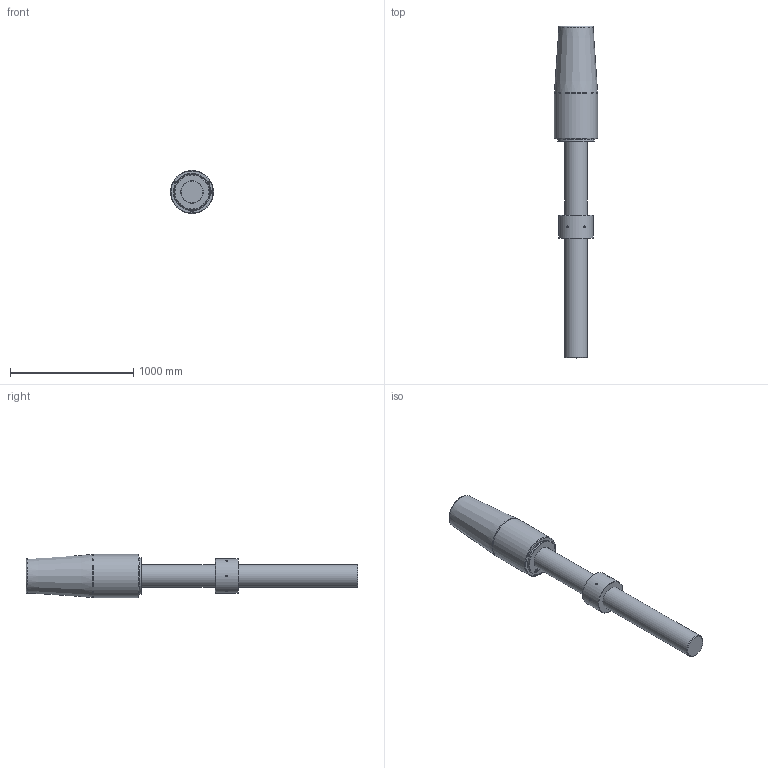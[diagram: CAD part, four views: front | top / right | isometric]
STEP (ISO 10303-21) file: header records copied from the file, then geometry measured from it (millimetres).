
FILE_DESCRIPTION(/* description */ (''),/* implementation_level */ '2;1');
FILE_NAME(/* name */ 'D:\Clienti\Redaelli (inventor)\CYB\STEP\Arrangement\CYB120 52 061 0.stp',/* time_stamp */ '2021-05-08T14:57:55+02:00',/* author */ ('fabri'),/* organization */ (''),/* preprocessor_version */ 'ST-DEVELOPER v16.13',/* originating_system */ 'Autodesk Inventor 2018',/* authorisation */ '');
FILE_SCHEMA (('AUTOMOTIVE_DESIGN { 1 0 10303 214 3 1 1 }'));
Length unit declared in the file: millimetre
Products named in the file (5): CYB120 52 061 0; RNT052 41 051 0_ROD; RNT052 41 051 0_ROD_1; CCY021-51-061-0_BUSH; CCY021-51-061-0
Assembly tree (4 placements, depth 2):
  CYB120 52 061 0
    RNT052 41 051 0_ROD
    RNT052 41 051 0_ROD_1
    CCY021-51-061-0_BUSH
    CCY021-51-061-0
Bounding box: 350 x 2690 x 350 mm (x, y, z)
Volume: 145821625.5 mm3; surface area: 3095050.9 mm2
Topology: 4 solids, 4 shells, 679 faces, 1824 edges, 1211 vertices
Faces by surface type: bspline 332, plane 309, cylinder 18, cone 16, torus 4
Full cylindrical faces by diameter (mm): 15 x6, 17.294 x3, 178.505 x2, 185 x1, 187 x1, 253 x1, 265 x1, 280 x1, 300 x1, 350 x1
Entity records: 22896 total; most frequent: CARTESIAN_POINT 8205, ORIENTED_EDGE 3550, DIRECTION 1855, EDGE_CURVE 1775, VERTEX_POINT 1201, LINE 1057, VECTOR 1057, EDGE_LOOP 780
